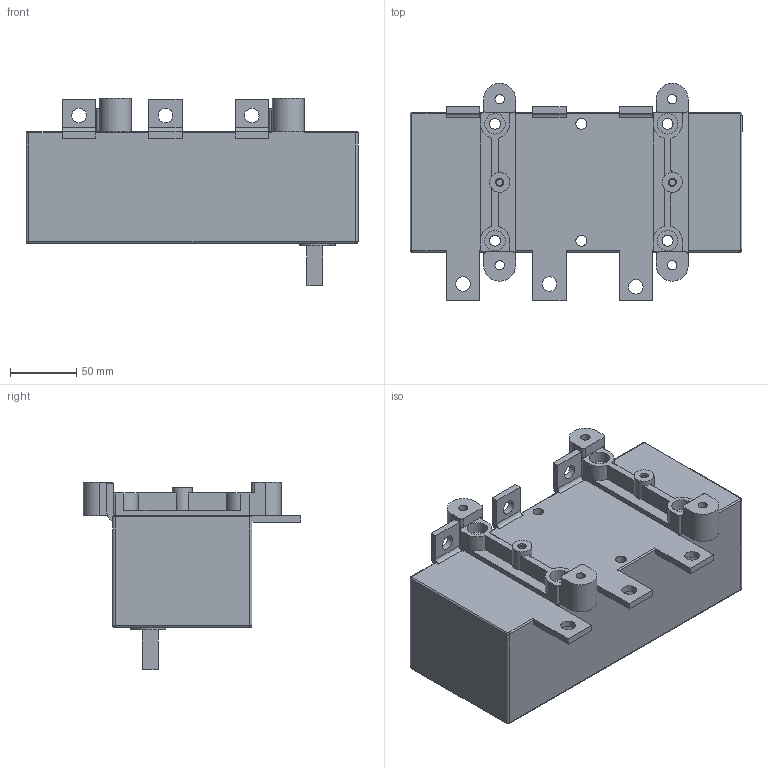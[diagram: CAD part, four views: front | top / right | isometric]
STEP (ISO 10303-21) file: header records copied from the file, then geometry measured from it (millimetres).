
FILE_DESCRIPTION(/* description */ (''),/* implementation_level */ '2;1');
FILE_NAME(/* name */ 'RA630 P3 B.stp',/* time_stamp */ '2021-08-19T08:34:12+02:00',/* author */ (''),/* organization */ (''),/* preprocessor_version */ 'ST-DEVELOPER v18.1',/* originating_system */ 'SIEMENS PLM Software NX 1965',/* authorisation */ '');
FILE_SCHEMA (('AUTOMOTIVE_DESIGN { 1 0 10303 214 3 1 1 1 }'));
Length unit declared in the file: millimetre
Products named in the file (1): RA630 P3 B_stp
Bounding box: 250 x 163.65 x 141 mm (x, y, z)
Volume: 2284354.3 mm3; surface area: 161987.6 mm2
Topology: 1 solids, 1 shells, 199 faces, 531 edges, 348 vertices
Faces by surface type: plane 99, cylinder 92, torus 5, bspline 3
Full cylindrical faces by diameter (mm): 4.8 x2, 6.2 x2, 7 x4, 8.2 x6, 11 x6, 14 x4, 15 x2, 15.5 x4
Entity records: 6192 total; most frequent: CARTESIAN_POINT 1108, DIRECTION 1087, ORIENTED_EDGE 994, EDGE_CURVE 497, AXIS2_PLACEMENT_3D 395, VERTEX_POINT 344, LINE 297, VECTOR 297
